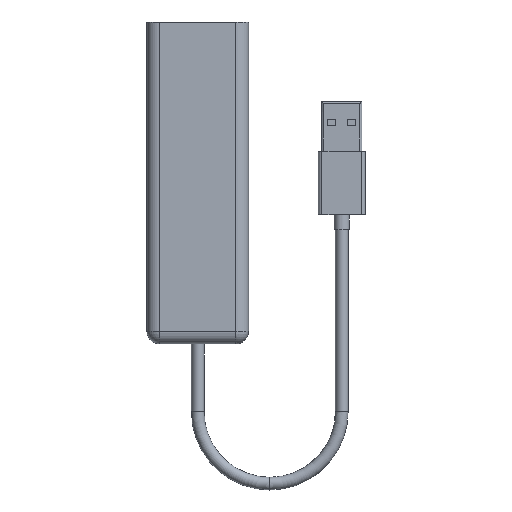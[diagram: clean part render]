
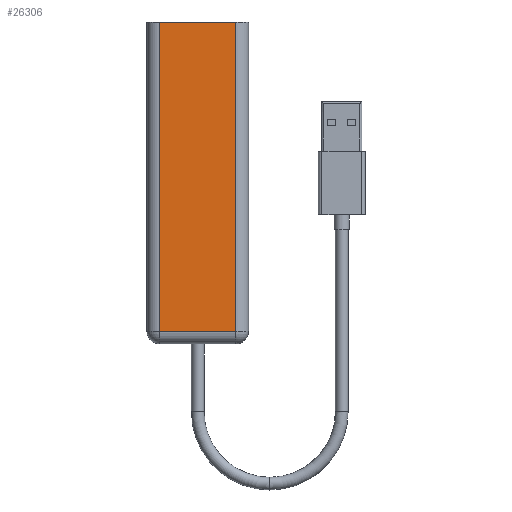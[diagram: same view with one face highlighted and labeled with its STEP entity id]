
A CAD part, front view. The second image highlights one B-rep face of the part: STEP entity #26306.
In plain terms, the highlighted planar face has unit normal (0, -1, 0).
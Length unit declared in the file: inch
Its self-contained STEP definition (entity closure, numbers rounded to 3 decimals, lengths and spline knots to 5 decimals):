
#1372 = LINE ( 'NONE', #41756, #14993 ) ;
#3167 = ORIENTED_EDGE ( 'NONE', *, *, #43014, .T. ) ;
#3692 = EDGE_LOOP ( 'NONE', ( #12571, #37862, #18876, #3167 ) ) ;
#4950 = DIRECTION ( 'NONE',  ( 0., 0., -1. ) ) ;
#8842 = LINE ( 'NONE', #35103, #17068 ) ;
#8908 = PLANE ( 'NONE',  #29105 ) ;
#12571 = ORIENTED_EDGE ( 'NONE', *, *, #17032, .F. ) ;
#12948 = DIRECTION ( 'NONE',  ( 0., -1., 0. ) ) ;
#14092 = VERTEX_POINT ( 'NONE', #38083 ) ;
#14993 = VECTOR ( 'NONE', #4950, 39.37008 ) ;
#17032 = EDGE_CURVE ( 'NONE', #17758, #37673, #8842, .T. ) ;
#17068 = VECTOR ( 'NONE', #27688, 39.37008 ) ;
#17758 = VERTEX_POINT ( 'NONE', #47294 ) ;
#18876 = ORIENTED_EDGE ( 'NONE', *, *, #30103, .T. ) ;
#20724 = DIRECTION ( 'NONE',  ( 0., 0., 1. ) ) ;
#21153 = LINE ( 'NONE', #42644, #31492 ) ;
#26306 = ADVANCED_FACE ( 'NONE', ( #45680 ), #8908, .T. ) ;
#27688 = DIRECTION ( 'NONE',  ( 1., 0., 0. ) ) ;
#29105 = AXIS2_PLACEMENT_3D ( 'NONE', #31346, #12948, #30883 ) ;
#30103 = EDGE_CURVE ( 'NONE', #35109, #14092, #21153, .T. ) ;
#30883 = DIRECTION ( 'NONE',  ( 0., 0., -1. ) ) ;
#31346 = CARTESIAN_POINT ( 'NONE',  ( 0., 0., 0. ) ) ;
#31482 = CARTESIAN_POINT ( 'NONE',  ( 1.05, 0., 0. ) ) ;
#31492 = VECTOR ( 'NONE', #35731, 39.37008 ) ;
#35103 = CARTESIAN_POINT ( 'NONE',  ( 0., 0., 0. ) ) ;
#35109 = VERTEX_POINT ( 'NONE', #38223 ) ;
#35300 = LINE ( 'NONE', #31482, #39862 ) ;
#35449 = EDGE_CURVE ( 'NONE', #17758, #35109, #1372, .T. ) ;
#35731 = DIRECTION ( 'NONE',  ( 1., 0., 0. ) ) ;
#37673 = VERTEX_POINT ( 'NONE', #38827 ) ;
#37862 = ORIENTED_EDGE ( 'NONE', *, *, #35449, .T. ) ;
#38083 = CARTESIAN_POINT ( 'NONE',  ( 1.05, 0., -3.65 ) ) ;
#38223 = CARTESIAN_POINT ( 'NONE',  ( 0.15, 0., -3.65 ) ) ;
#38827 = CARTESIAN_POINT ( 'NONE',  ( 1.05, 0., 0. ) ) ;
#39862 = VECTOR ( 'NONE', #20724, 39.37008 ) ;
#41756 = CARTESIAN_POINT ( 'NONE',  ( 0.15, 0., -3.8 ) ) ;
#42644 = CARTESIAN_POINT ( 'NONE',  ( 1.2, 0., -3.65 ) ) ;
#43014 = EDGE_CURVE ( 'NONE', #14092, #37673, #35300, .T. ) ;
#45680 = FACE_OUTER_BOUND ( 'NONE', #3692, .T. ) ;
#47294 = CARTESIAN_POINT ( 'NONE',  ( 0.15, 0., 0. ) ) ;
